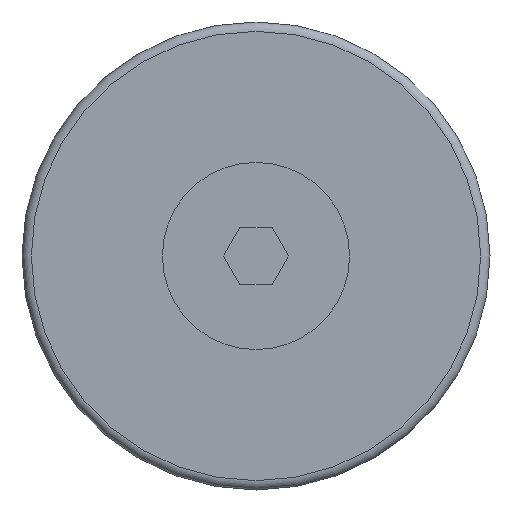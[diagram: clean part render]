
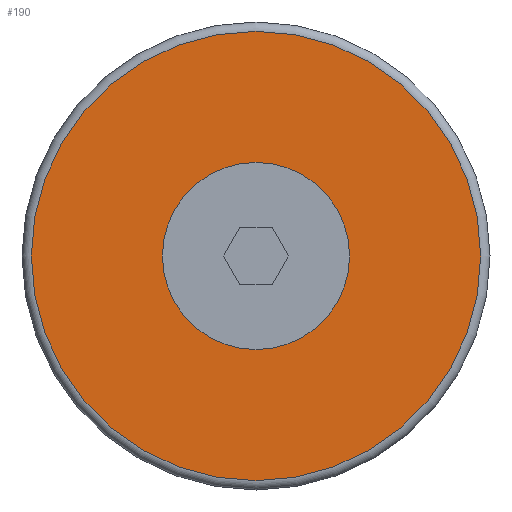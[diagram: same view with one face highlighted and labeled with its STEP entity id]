
A CAD part, front view. The second image highlights one B-rep face of the part: STEP entity #190.
In plain terms, the highlighted planar face has unit normal (0, -1, 0).
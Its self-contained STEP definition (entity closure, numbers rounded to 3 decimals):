
#190=ADVANCED_FACE('',(#279,#280),#281,.F.);
#279=FACE_OUTER_BOUND('',#418,.T.);
#280=FACE_BOUND('',#419,.T.);
#281=PLANE('',#420);
#418=EDGE_LOOP('',(#639));
#419=EDGE_LOOP('',(#640));
#420=AXIS2_PLACEMENT_3D('',#641,#642,#643);
#639=ORIENTED_EDGE('',*,*,#957,.F.);
#640=ORIENTED_EDGE('',*,*,#958,.T.);
#641=CARTESIAN_POINT('',(-6.,-16.0,0.));
#642=DIRECTION('',(0.0,1.0,0.0));
#643=DIRECTION('',(0.0,0.0,1.0));
#957=EDGE_CURVE('',#1105,#1105,#1106,.T.);
#958=EDGE_CURVE('',#1107,#1107,#1108,.T.);
#1105=VERTEX_POINT('',#1330);
#1106=CIRCLE('',#1331,12.);
#1107=VERTEX_POINT('',#1332);
#1108=CIRCLE('',#1333,5.);
#1330=CARTESIAN_POINT('',(-1.,-16.0,12.));
#1331=AXIS2_PLACEMENT_3D('',#1665,#1666,#1667);
#1332=CARTESIAN_POINT('',(-1.,-16.0,5.));
#1333=AXIS2_PLACEMENT_3D('',#1668,#1669,#1670);
#1665=CARTESIAN_POINT('',(-1.,-16.0,0.));
#1666=DIRECTION('',(0.0,1.0,0.0));
#1667=DIRECTION('',(0.0,0.0,1.0));
#1668=CARTESIAN_POINT('',(-1.,-16.0,0.));
#1669=DIRECTION('',(0.0,1.0,0.0));
#1670=DIRECTION('',(0.0,0.0,1.0));
